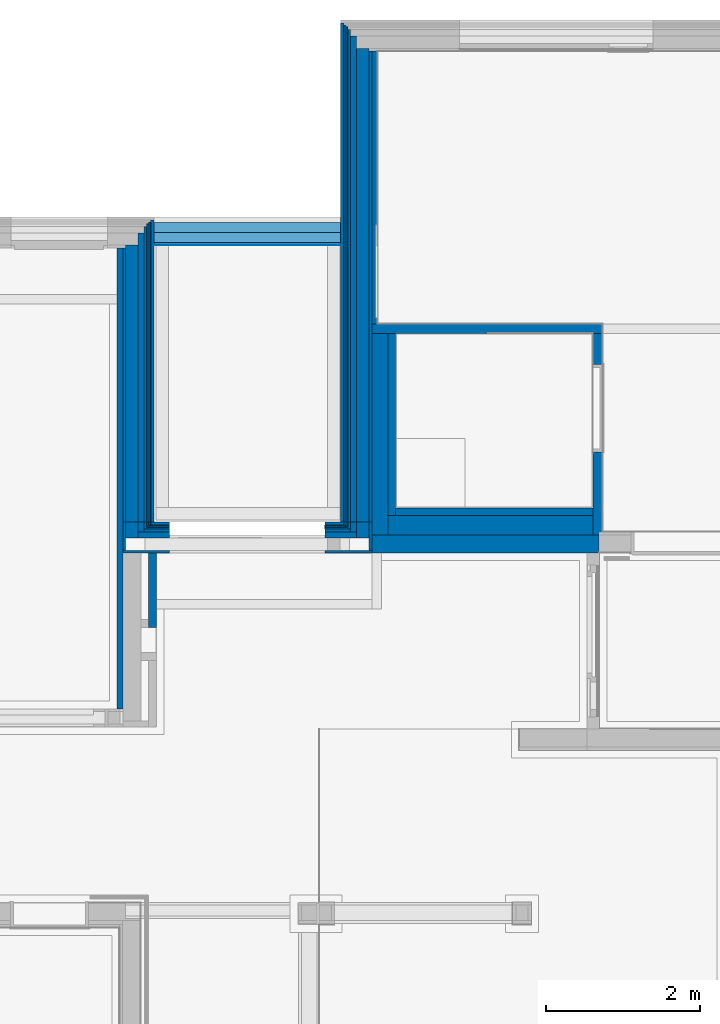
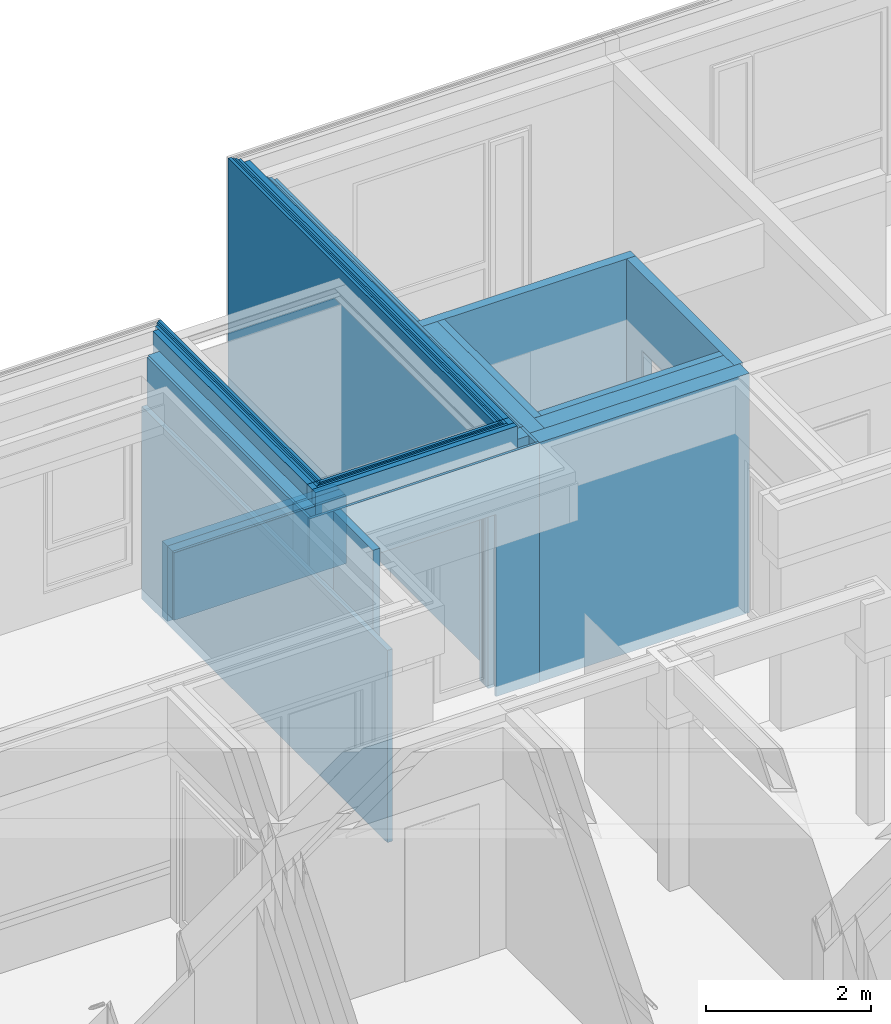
# One storey, part 54 of 222: 46 walls, 11 openings.
"""IFC4 building model written with IfcOpenShell, lengths in metres."""

from ifc_helpers import new_model, entity, si_unit, converted_unit, derived_unit, frame, frame_2d, origin, origin_with_axes, place, context, subcontext, project, spatial, polyline, rectangle, outline, extrude, material, element, save


model = new_model("IFC4")

# Units and contexts
model_context = context("Model", 3, precision=1e-05, world=origin())
body_context = subcontext(model_context, "Body", "Model", "MODEL_VIEW")
ifc_project = project(units=[si_unit("LENGTHUNIT", "METRE"), si_unit("AREAUNIT", "SQUARE_METRE"), si_unit("VOLUMEUNIT", "CUBIC_METRE"), si_unit("MASSUNIT", "GRAM", prefix="KILO"), converted_unit("PLANEANGLEUNIT", "DEGREE", entity("IfcPlaneAngleMeasure", 0.0174532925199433), si_unit("PLANEANGLEUNIT", "RADIAN"), dimensions=[0, 0, 0, 0, 0, 0, 0]), derived_unit("THERMALTRANSMITTANCEUNIT", [(si_unit("POWERUNIT", "WATT"), 1), (si_unit("THERMODYNAMICTEMPERATUREUNIT", "KELVIN"), -1), (si_unit("LENGTHUNIT", "METRE"), -2)]), derived_unit("VOLUMETRICFLOWRATEUNIT", [(si_unit("LENGTHUNIT", "METRE"), 3), (converted_unit("TIMEUNIT", "hour", entity("IfcTimeMeasure", 3600.0), si_unit("TIMEUNIT", "SECOND"), dimensions=[0, 0, 1, 0, 0, 0, 0]), -1), (si_unit("LENGTHUNIT", "METRE"), -1)])], contexts=[model_context])

# Site, building, storey
site_placement = place(None, origin())
site = spatial("IfcSite", under=ifc_project, at=site_placement, Name="Psychiatrie Neubau Wunstorf", CompositionType="ELEMENT")
building_placement = place(site_placement, origin())
building = spatial("IfcBuilding", under=site, at=building_placement, Name="Neubau H2 Stationsgebäude", CompositionType="ELEMENT")
storey_placement = place(building_placement, frame((0.0, 0.0, 3.6)))
storey = spatial("IfcBuildingStorey", under=building, at=storey_placement, Name="H2 Ebene +1", CompositionType="ELEMENT", Elevation=3.6)

# Wall, opening
ifc_material_1 = material(Name="WA-LB")
wall_1_placement = place(storey_placement, frame((67.889, 25.1140036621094, 0.0)))
wall_1 = element("IfcWall", 1, at=wall_1_placement, inside=storey, material=ifc_material_1, Name="2x Gipsfaserplatte", context=body_context, shape_type="SweptSolid", body=[
    extrude(outline(polyline([(0.0, 0.0), (3.222, 0.0), (3.222, 0.036), (2.81100488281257, 0.036), (2.81100488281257, 0.0359902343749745), (2.65100488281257, 0.0359902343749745), (2.65100488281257, 0.036), (0.0, 0.036), (0.0, 0.0)])), origin_with_axes(), (0.0, 0.0, 1.0), 3.55),
])
opening_1_placement = place(wall_1_placement, frame((0.602, 0.0, 0.0), z_axis=(0.0, 1.0, 0.0), x_axis=(0.0, 0.0, 1.0)))
element("IfcOpeningElement", 2, at=opening_1_placement, cuts=wall_1, Name="Türöffnung", ObjectType="Opening", context=body_context, shape_type="SweptSolid", body=[
    extrude(outline(polyline([(2.7, 2.01300094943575), (2.7, 0.0), (0.0, 0.0), (0.0, 2.01300094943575), (2.7, 2.01300094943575)])), origin_with_axes(), (0.0, 0.0, 1.0), 0.036),
])

ifc_material_2 = material(Name="WA-DL")
wall_2_placement = place(storey_placement, frame((68.085, 25.3100036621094, 0.0)))
wall_2 = element("IfcWall", 3, at=wall_2_placement, inside=storey, material=ifc_material_2, Name="Staffel + Zwischendämmung", context=body_context, shape_type="SweptSolid", body=[
    extrude(rectangle(XDim=2.83, YDim=0.08, at=frame_2d((1.415, 0.04), x_axis=(1.0, 0.0))), origin_with_axes(), (0.0, 0.0, 1.0), 3.75),
])
opening_2_placement = place(wall_2_placement, frame((0.406, 0.0, 0.0), z_axis=(0.0, 1.0, 0.0), x_axis=(0.0, 0.0, 1.0)))
element("IfcOpeningElement", 4, at=opening_2_placement, cuts=wall_2, Name="Türöffnung", ObjectType="Opening", context=body_context, shape_type="SweptSolid", body=[
    extrude(outline(polyline([(2.7, 2.01300094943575), (2.7, 0.0), (0.0, 0.0), (0.0, 2.01300094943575), (2.7, 2.01300094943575)])), origin_with_axes(), (0.0, 0.0, 1.0), 0.08),
])

ifc_material_3 = material(Name="WA-LB")
wall_3_placement = place(storey_placement, frame((68.165, 25.3900036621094, 0.0)))
wall_3 = element("IfcWall", 5, at=wall_3_placement, inside=storey, material=ifc_material_3, context=body_context, shape_type="SweptSolid", body=[
    extrude(rectangle(XDim=2.67, YDim=0.036, at=frame_2d((1.335, 0.018), x_axis=(1.0, 0.0))), origin_with_axes(), (0.0, 0.0, 1.0), 3.75),
])
opening_3_placement = place(wall_3_placement, frame((0.326, 0.0, 0.0), z_axis=(0.0, 1.0, 0.0), x_axis=(0.0, 0.0, 1.0)))
element("IfcOpeningElement", 6, at=opening_3_placement, cuts=wall_3, Name="Türöffnung", ObjectType="Opening", context=body_context, shape_type="SweptSolid", body=[
    extrude(outline(polyline([(2.7, 2.01300094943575), (2.7, 0.0), (0.0, 0.0), (0.0, 2.01300094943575), (2.7, 2.01300094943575)])), origin_with_axes(), (0.0, 0.0, 1.0), 0.036),
])

ifc_material_4 = material(Name="WA-KL")
wall_4_placement = place(storey_placement, frame((68.201, 25.4260036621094, 0.0)))
wall_4 = element("IfcWall", 7, at=wall_4_placement, inside=storey, material=ifc_material_4, Name="Konterlattung", context=body_context, shape_type="SweptSolid", body=[
    extrude(rectangle(XDim=2.598, YDim=0.024, at=frame_2d((1.299, 0.012), x_axis=(1.0, 0.0))), origin_with_axes(), (0.0, 0.0, 1.0), 3.75),
])
opening_4_placement = place(wall_4_placement, frame((0.29, 0.0, 0.0), z_axis=(0.0, 1.0, 0.0), x_axis=(0.0, 0.0, 1.0)))
element("IfcOpeningElement", 8, at=opening_4_placement, cuts=wall_4, Name="Türöffnung", ObjectType="Opening", context=body_context, shape_type="SweptSolid", body=[
    extrude(outline(polyline([(2.7, 2.01300094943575), (2.7, 0.0), (0.0, 0.0), (0.0, 2.01300094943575), (2.7, 2.01300094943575)])), origin_with_axes(), (0.0, 0.0, 1.0), 0.024),
])

ifc_material_5 = material(Name="WA-TL")
wall_5_placement = place(storey_placement, frame((68.225, 25.4500036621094, 0.0)))
wall_5 = element("IfcWall", 9, at=wall_5_placement, inside=storey, material=ifc_material_5, Name="Traglattung", context=body_context, shape_type="SweptSolid", body=[
    extrude(rectangle(XDim=2.55, YDim=0.024, at=frame_2d((1.275, 0.012), x_axis=(1.0, 0.0))), origin_with_axes(), (0.0, 0.0, 1.0), 3.75),
])
opening_5_placement = place(wall_5_placement, frame((0.266, 0.0, 0.0), z_axis=(0.0, 1.0, 0.0), x_axis=(0.0, 0.0, 1.0)))
element("IfcOpeningElement", 10, at=opening_5_placement, cuts=wall_5, Name="Türöffnung", ObjectType="Opening", context=body_context, shape_type="SweptSolid", body=[
    extrude(outline(polyline([(2.7, 2.01300094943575), (2.7, 0.0), (0.0, 0.0), (0.0, 2.01300094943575), (2.7, 2.01300094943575)])), origin_with_axes(), (0.0, 0.0, 1.0), 0.024),
])

ifc_material_6 = material(Name="WA-HS")
wall_6_placement = place(storey_placement, frame((68.249, 25.4740036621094, 0.0)))
wall_6 = element("IfcWall", 11, at=wall_6_placement, inside=storey, material=ifc_material_6, Name="Keramikschindel", context=body_context, shape_type="SweptSolid", body=[
    extrude(rectangle(XDim=2.502, YDim=0.042, at=frame_2d((1.251, 0.021), x_axis=(1.0, 0.0))), origin_with_axes(), (0.0, 0.0, 1.0), 3.75),
])
opening_6_placement = place(wall_6_placement, frame((0.242, 0.0, 0.0), z_axis=(0.0, 1.0, 0.0), x_axis=(0.0, 0.0, 1.0)))
element("IfcOpeningElement", 12, at=opening_6_placement, cuts=wall_6, Name="Türöffnung", ObjectType="Opening", context=body_context, shape_type="SweptSolid", body=[
    extrude(outline(polyline([(2.7, 2.01300094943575), (2.7, 0.0), (0.0, 0.0), (0.0, 2.01300094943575), (2.7, 2.01300094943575)])), origin_with_axes(), (0.0, 0.0, 1.0), 0.042),
])

# Walls
ifc_material_7 = material(Name="WA-LB")
wall_7_placement = place(storey_placement, frame((67.889, 25.5160036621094, 0.0), z_axis=(0.0, 0.0, 1.0), x_axis=(0.0, -1.0, 0.0)))
element("IfcWall", 13, at=wall_7_placement, inside=storey, material=ifc_material_7, Name="2x Gipsfaserplatte", context=body_context, shape_type="SweptSolid", body=[
    extrude(rectangle(XDim=0.366, YDim=0.036, at=frame_2d((0.183, 0.018), x_axis=(1.0, 0.0))), origin_with_axes(), (0.0, 0.0, 1.0), 3.55),
])
ifc_material_8 = material(Name="WA-HD")
wall_8_placement = place(storey_placement, frame((67.925, 25.5160036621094, 0.0), z_axis=(0.0, 0.0, 1.0), x_axis=(0.0, -1.0, 0.0)))
element("IfcWall", 14, at=wall_8_placement, inside=storey, material=ifc_material_8, Name="Holzständer + Zwischendämmung", context=body_context, shape_type="SweptSolid", body=[
    extrude(rectangle(XDim=0.206, YDim=0.16, at=frame_2d((0.103, 0.08), x_axis=(1.0, 0.0))), origin_with_axes(), (0.0, 0.0, 1.0), 3.55),
])
ifc_material_9 = material(Name="WA-DL")
wall_9_placement = place(storey_placement, frame((68.085, 25.5160036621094, 0.0), z_axis=(0.0, 0.0, 1.0), x_axis=(0.0, -1.0, 0.0)))
element("IfcWall", 15, at=wall_9_placement, inside=storey, material=ifc_material_9, Name="Staffel + Zwischendämmung", context=body_context, shape_type="SweptSolid", body=[
    extrude(rectangle(XDim=0.126, YDim=0.08, at=frame_2d((0.063, 0.04), x_axis=(1.0, 0.0))), origin_with_axes(), (0.0, 0.0, 1.0), 3.75),
])
ifc_material_10 = material(Name="WA-LB")
wall_10_placement = place(storey_placement, frame((68.165, 25.5160036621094, 0.0), z_axis=(0.0, 0.0, 1.0), x_axis=(0.0, -1.0, 0.0)))
element("IfcWall", 16, at=wall_10_placement, inside=storey, material=ifc_material_10, context=body_context, shape_type="SweptSolid", body=[
    extrude(rectangle(XDim=0.09, YDim=0.036, at=frame_2d((0.045, 0.018), x_axis=(1.0, 0.0))), origin_with_axes(), (0.0, 0.0, 1.0), 3.75),
])
ifc_material_11 = material(Name="WA-KL")
wall_11_placement = place(storey_placement, frame((68.201, 25.5160036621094, 0.0), z_axis=(0.0, 0.0, 1.0), x_axis=(0.0, -1.0, 0.0)))
element("IfcWall", 17, at=wall_11_placement, inside=storey, material=ifc_material_11, Name="Konterlattung", context=body_context, shape_type="SweptSolid", body=[
    extrude(rectangle(XDim=0.066, YDim=0.024, at=frame_2d((0.033, 0.012), x_axis=(1.0, 0.0))), origin_with_axes(), (0.0, 0.0, 1.0), 3.75),
])
ifc_material_12 = material(Name="WA-TL")
wall_12_placement = place(storey_placement, frame((68.225, 25.5160036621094, 0.0), z_axis=(0.0, 0.0, 1.0), x_axis=(0.0, -1.0, 0.0)))
element("IfcWall", 18, at=wall_12_placement, inside=storey, material=ifc_material_12, Name="Traglattung", context=body_context, shape_type="SweptSolid", body=[
    extrude(rectangle(XDim=0.042, YDim=0.024, at=frame_2d((0.021, 0.012), x_axis=(1.0, 0.0))), origin_with_axes(), (0.0, 0.0, 1.0), 3.75),
])
ifc_material_13 = material(Name="WA-LB")
wall_13_placement = place(storey_placement, frame((71.111, 25.1500036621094, 0.0), z_axis=(0.0, 0.0, 1.0), x_axis=(0.0, 1.0, 0.0)))
element("IfcWall", 19, at=wall_13_placement, inside=storey, material=ifc_material_13, Name="2x Gipsfaserplatte", context=body_context, shape_type="SweptSolid", body=[
    extrude(rectangle(XDim=0.366, YDim=0.036, at=frame_2d((0.183, 0.018), x_axis=(1.0, 0.0))), origin_with_axes(), (0.0, 0.0, 1.0), 3.55),
])
ifc_material_14 = material(Name="WA-HD")
wall_14_placement = place(storey_placement, frame((71.075, 25.3100036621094, 0.0), z_axis=(0.0, 0.0, 1.0), x_axis=(0.0, 1.0, 0.0)))
element("IfcWall", 20, at=wall_14_placement, inside=storey, material=ifc_material_14, Name="Holzständer + Zwischendämmung", context=body_context, shape_type="SweptSolid", body=[
    extrude(rectangle(XDim=0.206, YDim=0.16, at=frame_2d((0.103, 0.08), x_axis=(1.0, 0.0))), origin_with_axes(), (0.0, 0.0, 1.0), 3.55),
])
ifc_material_15 = material(Name="WA-DL")
wall_15_placement = place(storey_placement, frame((70.915, 25.3900036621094, 0.0), z_axis=(0.0, 0.0, 1.0), x_axis=(0.0, 1.0, 0.0)))
element("IfcWall", 21, at=wall_15_placement, inside=storey, material=ifc_material_15, Name="Staffel + Zwischendämmung", context=body_context, shape_type="SweptSolid", body=[
    extrude(rectangle(XDim=0.126, YDim=0.08, at=frame_2d((0.063, 0.04), x_axis=(1.0, 0.0))), origin_with_axes(), (0.0, 0.0, 1.0), 3.75),
])
ifc_material_16 = material(Name="WA-LB")
wall_16_placement = place(storey_placement, frame((70.835, 25.4260036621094, 0.0), z_axis=(0.0, 0.0, 1.0), x_axis=(0.0, 1.0, 0.0)))
element("IfcWall", 22, at=wall_16_placement, inside=storey, material=ifc_material_16, context=body_context, shape_type="SweptSolid", body=[
    extrude(rectangle(XDim=0.09, YDim=0.036, at=frame_2d((0.045, 0.018), x_axis=(1.0, 0.0))), origin_with_axes(), (0.0, 0.0, 1.0), 3.75),
])
ifc_material_17 = material(Name="WA-KL")
wall_17_placement = place(storey_placement, frame((70.799, 25.4500036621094, 0.0), z_axis=(0.0, 0.0, 1.0), x_axis=(0.0, 1.0, 0.0)))
element("IfcWall", 23, at=wall_17_placement, inside=storey, material=ifc_material_17, Name="Konterlattung", context=body_context, shape_type="SweptSolid", body=[
    extrude(rectangle(XDim=0.066, YDim=0.024, at=frame_2d((0.033, 0.012), x_axis=(1.0, 0.0))), origin_with_axes(), (0.0, 0.0, 1.0), 3.75),
])
ifc_material_18 = material(Name="WA-TL")
wall_18_placement = place(storey_placement, frame((70.775, 25.4740036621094, 0.0), z_axis=(0.0, 0.0, 1.0), x_axis=(0.0, 1.0, 0.0)))
element("IfcWall", 24, at=wall_18_placement, inside=storey, material=ifc_material_18, Name="Traglattung", context=body_context, shape_type="SweptSolid", body=[
    extrude(rectangle(XDim=0.042, YDim=0.024, at=frame_2d((0.021, 0.012), x_axis=(1.0, 0.0))), origin_with_axes(), (0.0, 0.0, 1.0), 3.75),
])
ifc_material_19 = material(Name="WA-LB")
wall_19_placement = place(storey_placement, frame((71.111, 25.5160036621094, 0.0), z_axis=(0.0, 0.0, 1.0), x_axis=(0.0, 1.0, 0.0)))
element("IfcWall", 25, at=wall_19_placement, inside=storey, material=ifc_material_19, context=body_context, shape_type="SweptSolid", body=[
    extrude(rectangle(XDim=6.09799633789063, YDim=0.036, at=frame_2d((3.04899816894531, 0.018), x_axis=(1.0, 0.0))), origin_with_axes(), (0.0, 0.0, 1.0), 3.55),
])
ifc_material_20 = material(Name="WA-HD")
wall_20_placement = place(storey_placement, frame((71.075, 25.5160036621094, 0.0), z_axis=(0.0, 0.0, 1.0), x_axis=(0.0, 1.0, 0.0)))
element("IfcWall", 26, at=wall_20_placement, inside=storey, material=ifc_material_20, context=body_context, shape_type="SweptSolid", body=[
    extrude(rectangle(XDim=6.13399633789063, YDim=0.16, at=frame_2d((3.06699816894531, 0.08), x_axis=(1.0, 0.0))), origin_with_axes(), (0.0, 0.0, 1.0), 3.55),
])
ifc_material_21 = material(Name="WA-DL")
wall_21_placement = place(storey_placement, frame((70.915, 25.5160036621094, 0.0), z_axis=(0.0, 0.0, 1.0), x_axis=(0.0, 1.0, 0.0)))
element("IfcWall", 27, at=wall_21_placement, inside=storey, material=ifc_material_21, context=body_context, shape_type="SweptSolid", body=[
    extrude(rectangle(XDim=6.29399633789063, YDim=0.08, at=frame_2d((3.14699816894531, 0.04), x_axis=(1.0, 0.0))), origin_with_axes(), (0.0, 0.0, 1.0), 3.75),
])
ifc_material_22 = material(Name="WA-LB")
wall_22_placement = place(storey_placement, frame((70.835, 25.5160036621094, 0.0), z_axis=(0.0, 0.0, 1.0), x_axis=(0.0, 1.0, 0.0)))
element("IfcWall", 28, at=wall_22_placement, inside=storey, material=ifc_material_22, context=body_context, shape_type="SweptSolid", body=[
    extrude(rectangle(XDim=6.37399633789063, YDim=0.036, at=frame_2d((3.18699816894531, 0.018), x_axis=(1.0, 0.0))), origin_with_axes(), (0.0, 0.0, 1.0), 3.75),
])
ifc_material_23 = material(Name="WA-KL")
wall_23_placement = place(storey_placement, frame((70.799, 25.5160036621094, 0.0), z_axis=(0.0, 0.0, 1.0), x_axis=(0.0, 1.0, 0.0)))
element("IfcWall", 29, at=wall_23_placement, inside=storey, material=ifc_material_23, context=body_context, shape_type="SweptSolid", body=[
    extrude(rectangle(XDim=6.40999633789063, YDim=0.024, at=frame_2d((3.20499816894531, 0.012), x_axis=(1.0, 0.0))), origin_with_axes(), (0.0, 0.0, 1.0), 3.75),
])
ifc_material_24 = material(Name="WA-TL")
wall_24_placement = place(storey_placement, frame((70.775, 25.5160036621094, 0.0), z_axis=(0.0, 0.0, 1.0), x_axis=(0.0, 1.0, 0.0)))
element("IfcWall", 30, at=wall_24_placement, inside=storey, material=ifc_material_24, context=body_context, shape_type="SweptSolid", body=[
    extrude(rectangle(XDim=6.43399633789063, YDim=0.024, at=frame_2d((3.21699816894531, 0.012), x_axis=(1.0, 0.0))), origin_with_axes(), (0.0, 0.0, 1.0), 3.75),
])
ifc_material_25 = material(Name="WA-HS")
wall_25_placement = place(storey_placement, frame((70.751, 25.5160036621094, 0.0), z_axis=(0.0, 0.0, 1.0), x_axis=(0.0, 1.0, 0.0)))
element("IfcWall", 31, at=wall_25_placement, inside=storey, material=ifc_material_25, Name="Keramikschindel", context=body_context, shape_type="SweptSolid", body=[
    extrude(rectangle(XDim=6.45799633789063, YDim=0.042, at=frame_2d((3.22899816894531, 0.021), x_axis=(1.0, 0.0))), origin_with_axes(), (0.0, 0.0, 1.0), 3.75),
])
ifc_material_26 = material(Name="WA-LB")
wall_26_placement = place(storey_placement, frame((67.889, 29.0639996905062, 0.0), z_axis=(0.0, 0.0, 1.0), x_axis=(0.0, -1.0, 0.0)))
element("IfcWall", 32, at=wall_26_placement, inside=storey, material=ifc_material_26, context=body_context, shape_type="SweptSolid", body=[
    extrude(rectangle(XDim=3.54799602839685, YDim=0.036, at=frame_2d((1.77399801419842, 0.018), x_axis=(1.0, 0.0))), origin_with_axes(), (0.0, 0.0, 1.0), 3.55),
])
ifc_material_27 = material(Name="WA-HD")
wall_27_placement = place(storey_placement, frame((67.925, 29.0999996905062, 0.0), z_axis=(0.0, 0.0, 1.0), x_axis=(0.0, -1.0, 0.0)))
element("IfcWall", 33, at=wall_27_placement, inside=storey, material=ifc_material_27, context=body_context, shape_type="SweptSolid", body=[
    extrude(rectangle(XDim=3.58399602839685, YDim=0.16, at=frame_2d((1.79199801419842, 0.08), x_axis=(1.0, 0.0))), origin_with_axes(), (0.0, 0.0, 1.0), 3.55),
])
ifc_material_28 = material(Name="WA-DL")
wall_28_placement = place(storey_placement, frame((68.085, 29.2599996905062, 0.0), z_axis=(0.0, 0.0, 1.0), x_axis=(0.0, -1.0, 0.0)))
element("IfcWall", 34, at=wall_28_placement, inside=storey, material=ifc_material_28, context=body_context, shape_type="SweptSolid", body=[
    extrude(rectangle(XDim=3.74399602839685, YDim=0.08, at=frame_2d((1.87199801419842, 0.04), x_axis=(1.0, 0.0))), origin_with_axes(), (0.0, 0.0, 1.0), 3.75),
])
ifc_material_29 = material(Name="WA-LB")
wall_29_placement = place(storey_placement, frame((68.165, 29.3399996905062, 0.0), z_axis=(0.0, 0.0, 1.0), x_axis=(0.0, -1.0, 0.0)))
element("IfcWall", 35, at=wall_29_placement, inside=storey, material=ifc_material_29, context=body_context, shape_type="SweptSolid", body=[
    extrude(rectangle(XDim=3.82399602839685, YDim=0.036, at=frame_2d((1.91199801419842, 0.018), x_axis=(1.0, 0.0))), origin_with_axes(), (0.0, 0.0, 1.0), 3.75),
])
ifc_material_30 = material(Name="WA-KL")
wall_30_placement = place(storey_placement, frame((68.201, 29.3759996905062, 0.0), z_axis=(0.0, 0.0, 1.0), x_axis=(0.0, -1.0, 0.0)))
element("IfcWall", 36, at=wall_30_placement, inside=storey, material=ifc_material_30, context=body_context, shape_type="SweptSolid", body=[
    extrude(rectangle(XDim=3.85999602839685, YDim=0.024, at=frame_2d((1.92999801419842, 0.012), x_axis=(1.0, 0.0))), origin_with_axes(), (0.0, 0.0, 1.0), 3.75),
])
ifc_material_31 = material(Name="WA-TL")
wall_31_placement = place(storey_placement, frame((68.225, 29.3999996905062, 0.0), z_axis=(0.0, 0.0, 1.0), x_axis=(0.0, -1.0, 0.0)))
element("IfcWall", 37, at=wall_31_placement, inside=storey, material=ifc_material_31, context=body_context, shape_type="SweptSolid", body=[
    extrude(rectangle(XDim=3.88399602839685, YDim=0.024, at=frame_2d((1.94199801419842, 0.012), x_axis=(1.0, 0.0))), origin_with_axes(), (0.0, 0.0, 1.0), 3.75),
])
ifc_material_32 = material(Name="WA-HS")
wall_32_placement = place(storey_placement, frame((68.249, 29.4239996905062, 0.0), z_axis=(0.0, 0.0, 1.0), x_axis=(0.0, -1.0, 0.0)))
element("IfcWall", 38, at=wall_32_placement, inside=storey, material=ifc_material_32, Name="Keramikschindel", context=body_context, shape_type="SweptSolid", body=[
    extrude(rectangle(XDim=3.90799602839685, YDim=0.042, at=frame_2d((1.95399801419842, 0.021), x_axis=(1.0, 0.0))), origin_with_axes(), (0.0, 0.0, 1.0), 3.75),
])

# Wall, opening
ifc_material_33 = material(Name="WI-SYS")
wall_33_placement = place(storey_placement, frame((70.709, 29.3924998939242, -0.63), z_axis=(0.0, 0.0, 1.0), x_axis=(-1.0, 0.0, 0.0)))
wall_33 = element("IfcWall", 39, at=wall_33_placement, inside=storey, material=ifc_material_33, context=body_context, shape_type="SweptSolid", body=[
    extrude(rectangle(XDim=2.418, YDim=0.1275, at=frame_2d((1.209, 0.06375), x_axis=(1.0, 0.0))), origin_with_axes(), (0.0, 0.0, 1.0), 3.805),
])
opening_7_placement = place(wall_33_placement, frame((0.0, 0.0, 1.12), z_axis=(0.0, 1.0, 0.0), x_axis=(0.0, 0.0, 1.0)))
element("IfcOpeningElement", 40, at=opening_7_placement, cuts=wall_33, Name="Fensteröffnung", ObjectType="Opening", context=body_context, shape_type="SweptSolid", body=[
    extrude(outline(polyline([(2.755, 2.418), (2.755, 0.0), (0.0, 0.0), (0.0, 2.418), (2.755, 2.418)])), origin_with_axes(), (0.0, 0.0, 1.0), 0.1275),
])

ifc_material_34 = material(Name="WI-SYS")
wall_34_placement = place(storey_placement, frame((70.709, 29.2649998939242, -0.51), z_axis=(0.0, 0.0, 1.0), x_axis=(-1.0, 0.0, 0.0)))
wall_34 = element("IfcWall", 41, at=wall_34_placement, inside=storey, material=ifc_material_34, context=body_context, shape_type="SweptSolid", body=[
    extrude(rectangle(XDim=2.418, YDim=0.127500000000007, at=frame_2d((1.209, 0.0637500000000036), x_axis=(1.0, 0.0))), origin_with_axes(), (0.0, 0.0, 1.0), 3.685),
])
opening_8_placement = place(wall_34_placement, frame((0.0, 0.0, 1.0), z_axis=(0.0, 1.0, 0.0), x_axis=(0.0, 0.0, 1.0)))
element("IfcOpeningElement", 42, at=opening_8_placement, cuts=wall_34, Name="Fensteröffnung", ObjectType="Opening", context=body_context, shape_type="SweptSolid", body=[
    extrude(outline(polyline([(2.755, 2.418), (2.755, 0.0), (0.0, 0.0), (0.0, 2.418), (2.755, 2.418)])), origin_with_axes(), (0.0, 0.0, 1.0), 0.127500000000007),
])

ifc_material_35 = material(Name="WA-FAS")
wall_35_placement = place(storey_placement, frame((70.709, 29.1374998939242, -0.51), z_axis=(0.0, 0.0, 1.0), x_axis=(-1.0, 0.0, 0.0)))
wall_35 = element("IfcWall", 43, at=wall_35_placement, inside=storey, material=ifc_material_35, context=body_context, shape_type="SweptSolid", body=[
    extrude(rectangle(XDim=2.418, YDim=0.034, at=frame_2d((1.209, 0.017), x_axis=(1.0, 0.0))), origin_with_axes(), (0.0, 0.0, 1.0), 3.685),
])
opening_9_placement = place(wall_35_placement, frame((0.0, 0.0, 1.0), z_axis=(0.0, 1.0, 0.0), x_axis=(0.0, 0.0, 1.0)))
element("IfcOpeningElement", 44, at=opening_9_placement, cuts=wall_35, Name="Fensteröffnung", ObjectType="Opening", context=body_context, shape_type="SweptSolid", body=[
    extrude(outline(polyline([(2.755, 2.418), (2.755, 0.0), (0.0, 0.0), (0.0, 2.418), (2.755, 2.418)])), origin_with_axes(), (0.0, 0.0, 1.0), 0.034),
])

ifc_material_36 = material(Name="WA-FAS")
wall_36_placement = place(storey_placement, frame((70.709, 29.1034998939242, -0.51), z_axis=(0.0, 0.0, 1.0), x_axis=(-1.0, 0.0, 0.0)))
wall_36 = element("IfcWall", 45, at=wall_36_placement, inside=storey, material=ifc_material_36, context=body_context, shape_type="SweptSolid", body=[
    extrude(rectangle(XDim=2.418, YDim=0.006, at=frame_2d((1.209, 0.003), x_axis=(1.0, 0.0))), origin_with_axes(), (0.0, 0.0, 1.0), 3.685),
])
opening_10_placement = place(wall_36_placement, frame((0.0, 0.0, 1.0), z_axis=(0.0, 1.0, 0.0), x_axis=(0.0, 0.0, 1.0)))
element("IfcOpeningElement", 46, at=opening_10_placement, cuts=wall_36, Name="Fensteröffnung", ObjectType="Opening", context=body_context, shape_type="SweptSolid", body=[
    extrude(outline(polyline([(2.755, 2.418), (2.755, 0.0), (0.0, 0.0), (0.0, 2.418), (2.755, 2.418)])), origin_with_axes(), (0.0, 0.0, 1.0), 0.006),
])

# Wall
ifc_material_37 = material(Name="WI-LB")
wall_37_placement = place(storey_placement, frame((71.111, 27.9575, 0.0)))
element("IfcWall", 47, at=wall_37_placement, inside=storey, material=ifc_material_37, context=body_context, shape_type="SweptSolid", body=[
    extrude(rectangle(XDim=2.989, YDim=0.125, at=frame_2d((1.4945, 0.0625), x_axis=(1.0, 0.0))), origin_with_axes(), (0.0, 0.0, 1.0), 3.55),
])

# Wall, opening
ifc_material_38 = material(Name="WI-LB")
wall_38_placement = place(storey_placement, frame((73.975, 27.9575, 0.0), z_axis=(0.0, 0.0, 1.0), x_axis=(0.0, -1.0, 0.0)))
wall_38 = element("IfcWall", 48, at=wall_38_placement, inside=storey, material=ifc_material_38, context=body_context, shape_type="SweptSolid", body=[
    extrude(rectangle(XDim=2.60799999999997, YDim=0.125, at=frame_2d((1.30399999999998, 0.0625), x_axis=(1.0, 0.0))), origin_with_axes(), (0.0, 0.0, 1.0), 3.55),
])
opening_11_placement = place(wall_38_placement, frame((0.4, 0.0, 0.0), z_axis=(0.0, 1.0, 0.0), x_axis=(0.0, 0.0, 1.0)))
element("IfcOpeningElement", 49, at=opening_11_placement, cuts=wall_38, Name="Türöffnung", ObjectType="Opening", context=body_context, shape_type="SweptSolid", body=[
    extrude(outline(polyline([(2.41, 1.135), (2.41, 0.0), (0.0, 0.0), (0.0, 1.135), (2.41, 1.135)])), origin_with_axes(), (0.0, 0.0, 1.0), 0.125),
])

# Walls
ifc_material_39 = material(Name="WI-LB")
wall_39_placement = place(storey_placement, frame((68.321, 24.1515036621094, 0.0), z_axis=(0.0, 0.0, 1.0), x_axis=(0.0, 1.0, 0.0)))
element("IfcWall", 50, at=wall_39_placement, inside=storey, material=ifc_material_39, context=body_context, shape_type="SweptSolid", body=[
    extrude(rectangle(XDim=0.9625, YDim=0.1, at=frame_2d((0.48125, 0.05), x_axis=(1.0, 0.0))), origin_with_axes(), (0.0, 0.0, 1.0), 3.55),
])
ifc_material_40 = material(Name="WI-HW 60")
wall_40_placement = place(storey_placement, frame((74.055, 25.3495, 0.0), z_axis=(0.0, 0.0, 1.0), x_axis=(-1.0, 0.0, 0.0)))
element("IfcWall", 51, at=wall_40_placement, inside=storey, material=ifc_material_40, context=body_context, shape_type="SweptSolid", body=[
    extrude(rectangle(XDim=2.944, YDim=0.232, at=frame_2d((1.472, 0.116), x_axis=(1.0, 0.0))), origin_with_axes(), (0.0, 0.0, 1.0), 3.55),
])
ifc_material_41 = material(Name="WI-IW")
wall_41_placement = place(storey_placement, frame((73.975, 25.6995, 0.0), z_axis=(0.0, 0.0, 1.0), x_axis=(-1.0, 0.0, 0.0)))
element("IfcWall", 52, at=wall_41_placement, inside=storey, material=ifc_material_41, context=body_context, shape_type="SweptSolid", body=[
    extrude(rectangle(XDim=2.554, YDim=0.1, at=frame_2d((1.277, 0.05), x_axis=(1.0, 0.0))), origin_with_axes(), (0.0, 0.0, 1.0), 3.55),
])
ifc_material_42 = material(Name="Installationsraum")
wall_42_placement = place(storey_placement, frame((73.975, 25.5995, 0.0), z_axis=(0.0, 0.0, 1.0), x_axis=(-1.0, 0.0, 0.0)))
element("IfcWall", 53, at=wall_42_placement, inside=storey, material=ifc_material_42, context=body_context, shape_type="SweptSolid", body=[
    extrude(rectangle(XDim=2.654, YDim=0.25, at=frame_2d((1.327, 0.125), x_axis=(1.0, 0.0))), origin_with_axes(), (0.0, 0.0, 1.0), 3.55),
])
ifc_material_43 = material(Name="WI-IW")
wall_43_placement = place(storey_placement, frame((71.421, 25.5995, 0.0), z_axis=(0.0, 0.0, 1.0), x_axis=(-1.23425913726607e-14, 1.0, 0.0)))
element("IfcWall", 54, at=wall_43_placement, inside=storey, material=ifc_material_43, context=body_context, shape_type="SweptSolid", body=[
    extrude(rectangle(XDim=2.35799999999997, YDim=0.1, at=frame_2d((1.17899999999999, 0.05), x_axis=(1.0, 0.0))), origin_with_axes(), (0.0, 0.0, 1.0), 3.55),
])
ifc_material_44 = material(Name="Installationsraum")
wall_44_placement = place(storey_placement, frame((71.321, 25.3495, 0.0), z_axis=(0.0, 0.0, 1.0), x_axis=(-1.1159444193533e-14, 1.0, 0.0)))
element("IfcWall", 55, at=wall_44_placement, inside=storey, material=ifc_material_44, context=body_context, shape_type="SweptSolid", body=[
    extrude(rectangle(XDim=2.60799999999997, YDim=0.21, at=frame_2d((1.30399999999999, 0.105), x_axis=(1.0, 0.0))), origin_with_axes(), (0.0, 0.0, 1.0), 3.55),
])
ifc_material_45 = material(Name="WI-LB")
wall_45_placement = place(storey_placement, frame((67.814, 29.0639996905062, 0.0), z_axis=(0.0, 0.0, 1.0), x_axis=(0.0, -1.0, 0.0)))
element("IfcWall", 56, at=wall_45_placement, inside=storey, material=ifc_material_45, context=body_context, shape_type="SweptSolid", body=[
    extrude(rectangle(XDim=5.96799969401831, YDim=0.075, at=frame_2d((2.98399984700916, 0.0375), x_axis=(1.0, 0.0))), origin_with_axes(), (0.0, 0.0, 1.0), 2.85),
])
ifc_material_46 = material(Name="WI-LB")
wall_46_placement = place(storey_placement, frame((71.111, 31.614, 0.0), z_axis=(0.0, 0.0, 1.0), x_axis=(0.0, -1.0, 0.0)))
element("IfcWall", 57, at=wall_46_placement, inside=storey, material=ifc_material_46, context=body_context, shape_type="SweptSolid", body=[
    extrude(rectangle(XDim=3.53150000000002, YDim=0.075, at=frame_2d((1.76575000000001, 0.0375), x_axis=(1.0, 0.0))), origin_with_axes(), (0.0, 0.0, 1.0), 3.5),
])

save(model, "model.ifc")
